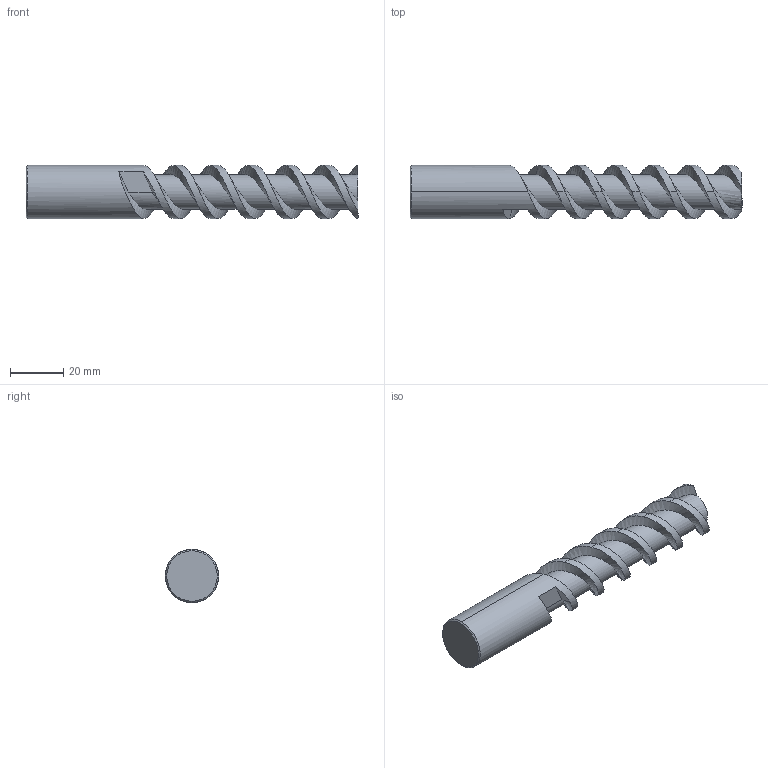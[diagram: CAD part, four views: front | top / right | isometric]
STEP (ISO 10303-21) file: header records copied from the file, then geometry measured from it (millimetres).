
FILE_DESCRIPTION (( 'STEP AP214' ), '1' );
FILE_NAME ('E2122_20_125.STEP', '2013-04-10T07:05:27', ( '' ), ( '' ), 'SwSTEP 2.0', 'SolidWorks 2013', '' );
FILE_SCHEMA (( 'AUTOMOTIVE_DESIGN' ));
Length unit declared in the file: millimetre
Products named in the file (1): E2122_20_125
Bounding box: 125 x 20 x 20 mm (x, y, z)
Volume: 28123 mm3; surface area: 8995 mm2
Topology: 1 solids, 1 shells, 28 faces, 72 edges, 46 vertices
Faces by surface type: cylinder 12, plane 8, bspline 6, cone 2
Entity records: 7331 total; most frequent: CARTESIAN_POINT 6440, ORIENTED_EDGE 144, DIRECTION 84, EDGE_CURVE 72, VERTEX_POINT 46, UNCERTAINTY_MEASURE_WITH_UNIT 31, COLOUR_RGB 30, SURFACE_STYLE_FILL_AREA 30
